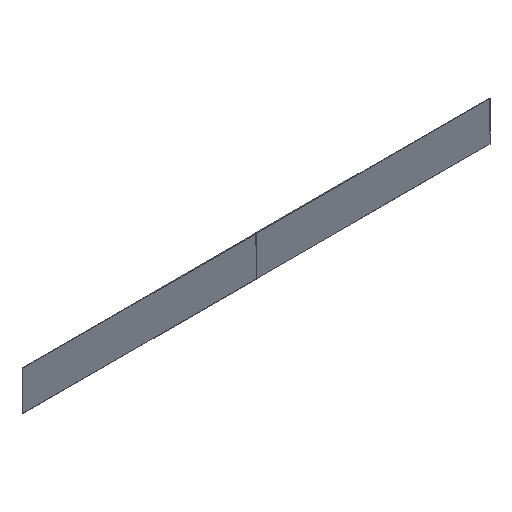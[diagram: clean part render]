
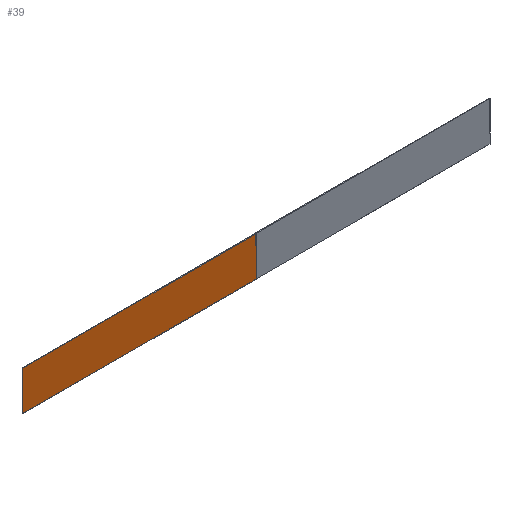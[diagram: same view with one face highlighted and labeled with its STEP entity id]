
A CAD part, isometric view. The second image highlights one B-rep face of the part: STEP entity #39.
In plain terms, the highlighted planar face has unit normal (0, -1, 0).
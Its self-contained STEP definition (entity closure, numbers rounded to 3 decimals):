
#39=ADVANCED_FACE('',(#51),#355,.T.);
#51=FACE_OUTER_BOUND('',#63,.T.);
#63=EDGE_LOOP('',(#87,#88,#89,#90));
#87=ORIENTED_EDGE('',*,*,#249,.F.);
#88=ORIENTED_EDGE('',*,*,#246,.F.);
#89=ORIENTED_EDGE('',*,*,#243,.F.);
#90=ORIENTED_EDGE('',*,*,#239,.F.);
#119=PCURVE('',#351,#167);
#123=PCURVE('',#352,#171);
#127=PCURVE('',#353,#175);
#131=PCURVE('',#354,#179);
#135=PCURVE('',#355,#183);
#136=PCURVE('',#355,#184);
#137=PCURVE('',#355,#185);
#138=PCURVE('',#355,#186);
#167=DEFINITIONAL_REPRESENTATION('',(#264),#586);
#171=DEFINITIONAL_REPRESENTATION('',(#272),#586);
#175=DEFINITIONAL_REPRESENTATION('',(#279),#586);
#179=DEFINITIONAL_REPRESENTATION('',(#286),#586);
#183=DEFINITIONAL_REPRESENTATION('',(#291),#586);
#184=DEFINITIONAL_REPRESENTATION('',(#292),#586);
#185=DEFINITIONAL_REPRESENTATION('',(#293),#586);
#186=DEFINITIONAL_REPRESENTATION('',(#294),#586);
#215=SURFACE_CURVE('',#263,(#119,#138),.PCURVE_S1.);
#219=SURFACE_CURVE('',#271,(#123,#137),.PCURVE_S1.);
#222=SURFACE_CURVE('',#278,(#127,#136),.PCURVE_S1.);
#225=SURFACE_CURVE('',#285,(#131,#135),.PCURVE_S1.);
#239=EDGE_CURVE('',#335,#336,#215,.T.);
#243=EDGE_CURVE('',#336,#339,#219,.T.);
#246=EDGE_CURVE('',#339,#341,#222,.T.);
#249=EDGE_CURVE('',#341,#335,#225,.T.);
#263=B_SPLINE_CURVE_WITH_KNOTS('',1,(#427,#428),.UNSPECIFIED.,.F.,.F.,(2,
2),(-2002.,-1848.),.UNSPECIFIED.);
#264=B_SPLINE_CURVE_WITH_KNOTS('',1,(#429,#430),.UNSPECIFIED.,.F.,.F.,(2,
2),(-2002.,-1848.),.UNSPECIFIED.);
#271=B_SPLINE_CURVE_WITH_KNOTS('',1,(#443,#444),.UNSPECIFIED.,.F.,.F.,(2,
2),(-1848.,-1001.),.UNSPECIFIED.);
#272=B_SPLINE_CURVE_WITH_KNOTS('',1,(#445,#446),.UNSPECIFIED.,.F.,.F.,(2,
2),(-1848.,-1001.),.UNSPECIFIED.);
#278=B_SPLINE_CURVE_WITH_KNOTS('',1,(#457,#458),.UNSPECIFIED.,.F.,.F.,(2,
2),(-1001.,-847.),.UNSPECIFIED.);
#279=B_SPLINE_CURVE_WITH_KNOTS('',1,(#459,#460),.UNSPECIFIED.,.F.,.F.,(2,
2),(-1001.,-847.),.UNSPECIFIED.);
#285=B_SPLINE_CURVE_WITH_KNOTS('',1,(#471,#472),.UNSPECIFIED.,.F.,.F.,(2,
2),(-847.,0.),.UNSPECIFIED.);
#286=B_SPLINE_CURVE_WITH_KNOTS('',1,(#473,#474),.UNSPECIFIED.,.F.,.F.,(2,
2),(-847.,0.),.UNSPECIFIED.);
#291=B_SPLINE_CURVE_WITH_KNOTS('',1,(#483,#484),.UNSPECIFIED.,.F.,.F.,(2,
2),(-847.,0.),.UNSPECIFIED.);
#292=B_SPLINE_CURVE_WITH_KNOTS('',1,(#485,#486),.UNSPECIFIED.,.F.,.F.,(2,
2),(-1001.,-847.),.UNSPECIFIED.);
#293=B_SPLINE_CURVE_WITH_KNOTS('',1,(#487,#488),.UNSPECIFIED.,.F.,.F.,(2,
2),(-1848.,-1001.),.UNSPECIFIED.);
#294=B_SPLINE_CURVE_WITH_KNOTS('',1,(#489,#490),.UNSPECIFIED.,.F.,.F.,(2,
2),(-2002.,-1848.),.UNSPECIFIED.);
#335=VERTEX_POINT('',#419);
#336=VERTEX_POINT('',#420);
#339=VERTEX_POINT('',#423);
#341=VERTEX_POINT('',#425);
#351=PLANE('',#383);
#352=PLANE('',#384);
#353=PLANE('',#385);
#354=PLANE('',#386);
#355=PLANE('',#387);
#383=AXIS2_PLACEMENT_3D('',#413,#398,$);
#384=AXIS2_PLACEMENT_3D('',#414,#399,$);
#385=AXIS2_PLACEMENT_3D('',#415,#400,$);
#386=AXIS2_PLACEMENT_3D('',#416,#401,$);
#387=AXIS2_PLACEMENT_3D('',#417,#402,$);
#398=DIRECTION('',(-1.,0.,0.));
#399=DIRECTION('',(0.,0.,1.));
#400=DIRECTION('',(1.,0.,0.));
#401=DIRECTION('',(0.,0.,-1.));
#402=DIRECTION('',(0.,-1.,0.));
#413=CARTESIAN_POINT('',(-848.,-588.,37.));
#414=CARTESIAN_POINT('',(-848.,-588.,180.));
#415=CARTESIAN_POINT('',(-1.,-588.,180.));
#416=CARTESIAN_POINT('',(-1.,-588.,37.));
#417=CARTESIAN_POINT('',(-1.,-588.,37.));
#419=CARTESIAN_POINT('',(-848.,-588.,37.));
#420=CARTESIAN_POINT('',(-848.,-588.,180.));
#423=CARTESIAN_POINT('',(-1.,-588.,180.));
#425=CARTESIAN_POINT('',(-1.,-588.,37.));
#427=CARTESIAN_POINT('',(-848.,-588.,37.));
#428=CARTESIAN_POINT('',(-848.,-588.,180.));
#429=CARTESIAN_POINT('',(-2002.,0.));
#430=CARTESIAN_POINT('',(-1848.,0.));
#443=CARTESIAN_POINT('',(-848.,-588.,180.));
#444=CARTESIAN_POINT('',(-1.,-588.,180.));
#445=CARTESIAN_POINT('',(-1848.,0.));
#446=CARTESIAN_POINT('',(-1001.,0.));
#457=CARTESIAN_POINT('',(-1.,-588.,180.));
#458=CARTESIAN_POINT('',(-1.,-588.,37.));
#459=CARTESIAN_POINT('',(-1001.,0.));
#460=CARTESIAN_POINT('',(-847.,0.));
#471=CARTESIAN_POINT('',(-1.,-588.,37.));
#472=CARTESIAN_POINT('',(-848.,-588.,37.));
#473=CARTESIAN_POINT('',(-847.,0.));
#474=CARTESIAN_POINT('',(0.,0.));
#483=CARTESIAN_POINT('',(0.,-847.));
#484=CARTESIAN_POINT('',(0.,0.));
#485=CARTESIAN_POINT('',(156.,-847.));
#486=CARTESIAN_POINT('',(0.,-847.));
#487=CARTESIAN_POINT('',(156.,0.));
#488=CARTESIAN_POINT('',(156.,-847.));
#489=CARTESIAN_POINT('',(0.,0.));
#490=CARTESIAN_POINT('',(156.,0.));
#586=(
GEOMETRIC_REPRESENTATION_CONTEXT(2)
PARAMETRIC_REPRESENTATION_CONTEXT()
REPRESENTATION_CONTEXT('pspace','')
);
